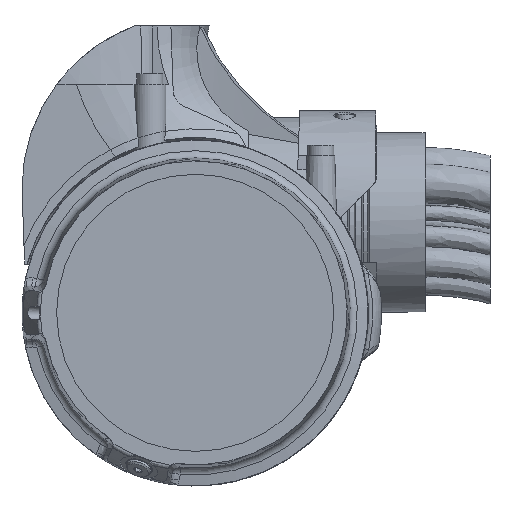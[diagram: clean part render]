
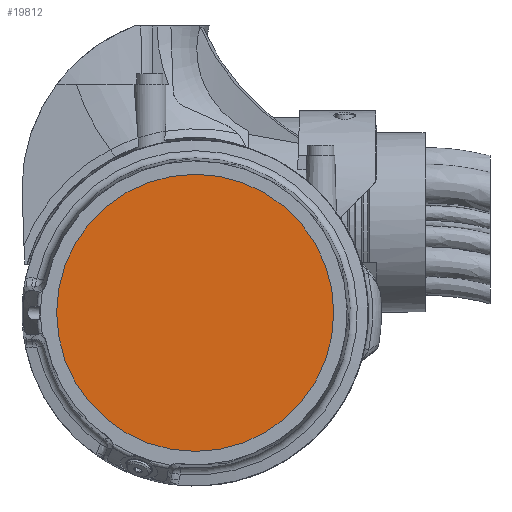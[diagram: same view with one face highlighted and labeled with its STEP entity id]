
A CAD part, left-side view. The second image highlights one B-rep face of the part: STEP entity #19812.
In plain terms, the highlighted planar face has unit normal (-1, 0, 0).
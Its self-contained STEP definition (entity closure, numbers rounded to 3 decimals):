
#1838 = DIRECTION ( 'NONE',  ( 0., -1., 0. ) ) ;
#3543 = CARTESIAN_POINT ( 'NONE',  ( 2929.5, 0., 1940. ) ) ;
#5530 = VERTEX_POINT ( 'NONE', #5831 ) ;
#5831 = CARTESIAN_POINT ( 'NONE',  ( 2929.5, -64., 1940. ) ) ;
#6708 = DIRECTION ( 'NONE',  ( -1., 0., 0. ) ) ;
#8123 = CIRCLE ( 'NONE', #28595, 64. ) ;
#9563 = PLANE ( 'NONE',  #21878 ) ;
#9706 = ORIENTED_EDGE ( 'NONE', *, *, #14443, .T. ) ;
#11069 = EDGE_LOOP ( 'NONE', ( #9706 ) ) ;
#12852 = DIRECTION ( 'NONE',  ( 0., -1., 0. ) ) ;
#14443 = EDGE_CURVE ( 'NONE', #5530, #5530, #8123, .T. ) ;
#16027 = CARTESIAN_POINT ( 'NONE',  ( 2929.5, 13.5, 1940. ) ) ;
#19812 = ADVANCED_FACE ( 'NONE', ( #27623 ), #9563, .T. ) ;
#21878 = AXIS2_PLACEMENT_3D ( 'NONE', #16027, #6708, #1838 ) ;
#26734 = DIRECTION ( 'NONE',  ( -1., 0., 0. ) ) ;
#27623 = FACE_OUTER_BOUND ( 'NONE', #11069, .T. ) ;
#28595 = AXIS2_PLACEMENT_3D ( 'NONE', #3543, #26734, #12852 ) ;
